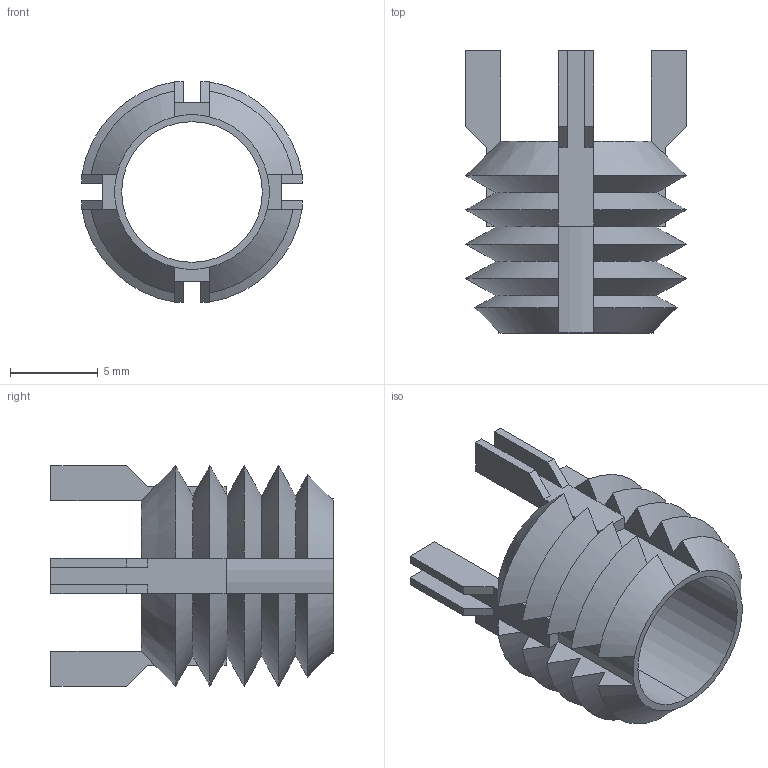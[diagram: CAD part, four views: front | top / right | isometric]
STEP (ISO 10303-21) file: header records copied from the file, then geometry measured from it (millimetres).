
FILE_DESCRIPTION (( 'STEP AP203' ), '1' );
FILE_NAME ('TR1535.66244.step', '2023-05-02T13:59:28', ( '' ), ( '' ), 'SwSTEP 2.0', 'SolidWorks 2019', '' );
FILE_SCHEMA (( 'CONFIG_CONTROL_DESIGN' ));
Length unit declared in the file: millimetre
Products named in the file (1): TR1535.66244
Bounding box: 12.56 x 16.06 x 12.56 mm (x, y, z)
Volume: 460.4 mm3; surface area: 1196.4 mm2
Topology: 1 solids, 1 shells, 136 faces, 346 edges, 212 vertices
Faces by surface type: plane 90, cone 40, cylinder 6
Entity records: 4199 total; most frequent: CARTESIAN_POINT 1055, ORIENTED_EDGE 692, DIRECTION 556, EDGE_CURVE 346, VERTEX_POINT 212, AXIS2_PLACEMENT_3D 193, VECTOR 170, LINE 170
